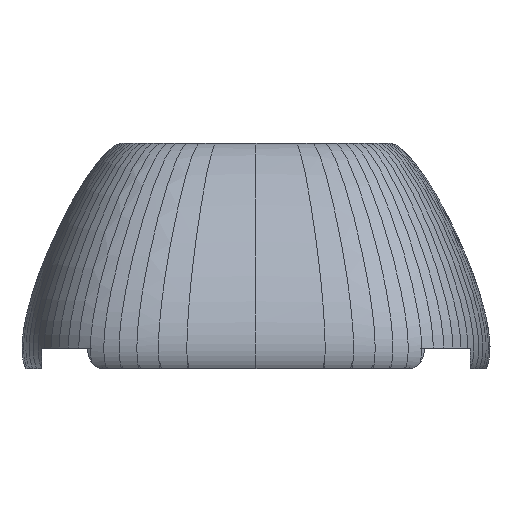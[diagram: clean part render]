
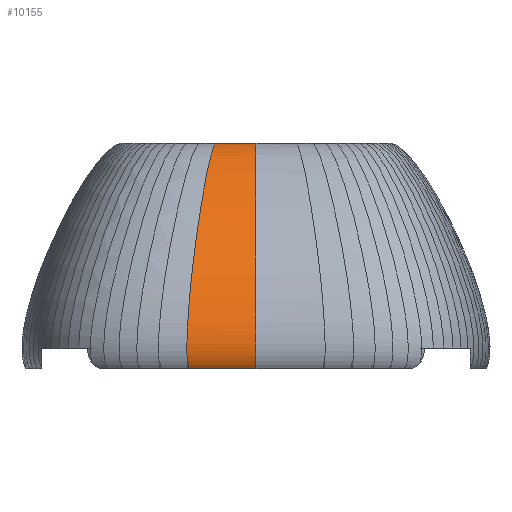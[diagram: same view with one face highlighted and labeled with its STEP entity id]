
A CAD part, left-side view. The second image highlights one B-rep face of the part: STEP entity #10155.
In plain terms, the highlighted free-form (B-spline) face has degree [1, 3] with [2, 4] control points.
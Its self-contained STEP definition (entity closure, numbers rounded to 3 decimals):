
#889 = PLANE('',#890);
#890 = AXIS2_PLACEMENT_3D('',#891,#892,#893);
#891 = CARTESIAN_POINT('',(195.,0.,295.));
#892 = DIRECTION('',(0.,0.,1.));
#893 = DIRECTION('',(-0.984,0.178,0.));
#3633 = VERTEX_POINT('',#3634);
#3634 = CARTESIAN_POINT('',(-194.629,40.593,295.));
#3646 = ( BOUNDED_SURFACE() B_SPLINE_SURFACE(1,3,(
    (#3647,#3648,#3649,#3650)
    ,(#3651,#3652,#3653,#3654
)),.UNSPECIFIED.,.F.,.F.,.F.) B_SPLINE_SURFACE_WITH_KNOTS((2,2),(4,4),(
    34.,35.),(0.,1.),.PIECEWISE_BEZIER_KNOTS.) 
GEOMETRIC_REPRESENTATION_ITEM() RATIONAL_B_SPLINE_SURFACE((
    (1.,1.,1.,1.)
,(1.,1.,1.,1.))) REPRESENTATION_ITEM('') SURFACE() );
#3647 = CARTESIAN_POINT('',(-347.331,97.927,65.));
#3648 = CARTESIAN_POINT('',(-381.651,107.824,
    111.667));
#3649 = CARTESIAN_POINT('',(-259.671,70.841,
    293.333));
#3650 = CARTESIAN_POINT('',(-193.513,57.298,295.));
#3651 = CARTESIAN_POINT('',(-349.333,69.377,65.));
#3652 = CARTESIAN_POINT('',(-383.851,76.389,
    111.667));
#3653 = CARTESIAN_POINT('',(-261.168,50.188,
    293.333));
#3654 = CARTESIAN_POINT('',(-194.629,40.593,295.));
#3662 = EDGE_CURVE('',#3633,#3663,#3665,.T.);
#3663 = VERTEX_POINT('',#3664);
#3664 = CARTESIAN_POINT('',(-195.,0.,295.));
#3665 = SURFACE_CURVE('',#3666,(#3669,#3675),.PCURVE_S1.);
#3666 = B_SPLINE_CURVE_WITH_KNOTS('',1,(#3667,#3668),.UNSPECIFIED.,.F.,
  .F.,(2,2),(35.,36.),.PIECEWISE_BEZIER_KNOTS.);
#3667 = CARTESIAN_POINT('',(-194.629,40.593,295.));
#3668 = CARTESIAN_POINT('',(-195.,0.,295.));
#3669 = PCURVE('',#889,#3670);
#3670 = DEFINITIONAL_REPRESENTATION('',(#3671),#3674);
#3671 = B_SPLINE_CURVE_WITH_KNOTS('',1,(#3672,#3673),.UNSPECIFIED.,.F.,
  .F.,(2,2),(35.,36.),.PIECEWISE_BEZIER_KNOTS.);
#3672 = CARTESIAN_POINT('',(390.631,29.421));
#3673 = CARTESIAN_POINT('',(383.77,69.431));
#3674 = ( GEOMETRIC_REPRESENTATION_CONTEXT(2) 
PARAMETRIC_REPRESENTATION_CONTEXT() REPRESENTATION_CONTEXT('2D SPACE',''
  ) );
#3675 = PCURVE('',#3676,#3685);
#3676 = ( BOUNDED_SURFACE() B_SPLINE_SURFACE(1,3,(
    (#3677,#3678,#3679,#3680)
    ,(#3681,#3682,#3683,#3684
)),.UNSPECIFIED.,.F.,.F.,.F.) B_SPLINE_SURFACE_WITH_KNOTS((2,2),(4,4),(
    35.,36.),(0.,1.),.PIECEWISE_BEZIER_KNOTS.) 
GEOMETRIC_REPRESENTATION_ITEM() RATIONAL_B_SPLINE_SURFACE((
    (1.,1.,1.,1.)
,(1.,1.,1.,1.))) REPRESENTATION_ITEM('') SURFACE() );
#3677 = CARTESIAN_POINT('',(-349.333,69.377,65.));
#3678 = CARTESIAN_POINT('',(-383.851,76.389,
    111.667));
#3679 = CARTESIAN_POINT('',(-261.168,50.188,
    293.333));
#3680 = CARTESIAN_POINT('',(-194.629,40.593,295.));
#3681 = CARTESIAN_POINT('',(-350.,0.,65.));
#3682 = CARTESIAN_POINT('',(-384.583,0.,
    111.667));
#3683 = CARTESIAN_POINT('',(-261.667,0.,
    293.333));
#3684 = CARTESIAN_POINT('',(-195.,0.,295.));
#3685 = DEFINITIONAL_REPRESENTATION('',(#3686),#3690);
#3686 = LINE('',#3687,#3688);
#3687 = CARTESIAN_POINT('',(0.,1.));
#3688 = VECTOR('',#3689,1.);
#3689 = DIRECTION('',(1.,0.));
#3690 = ( GEOMETRIC_REPRESENTATION_CONTEXT(2) 
PARAMETRIC_REPRESENTATION_CONTEXT() REPRESENTATION_CONTEXT('2D SPACE',''
  ) );
#3706 = ( BOUNDED_SURFACE() B_SPLINE_SURFACE(1,3,(
    (#3707,#3708,#3709,#3710)
    ,(#3711,#3712,#3713,#3714
)),.UNSPECIFIED.,.F.,.F.,.F.) B_SPLINE_SURFACE_WITH_KNOTS((2,2),(4,4),(
    36.,37.),(0.,1.),.PIECEWISE_BEZIER_KNOTS.) 
GEOMETRIC_REPRESENTATION_ITEM() RATIONAL_B_SPLINE_SURFACE((
    (1.,1.,1.,1.)
,(1.,1.,1.,1.))) REPRESENTATION_ITEM('') SURFACE() );
#3707 = CARTESIAN_POINT('',(-350.,0.,65.));
#3708 = CARTESIAN_POINT('',(-384.583,0.,
    111.667));
#3709 = CARTESIAN_POINT('',(-261.667,0.,
    293.333));
#3710 = CARTESIAN_POINT('',(-195.,0.,295.));
#3711 = CARTESIAN_POINT('',(-349.333,-69.377,65.));
#3712 = CARTESIAN_POINT('',(-383.851,-76.389,
    111.667));
#3713 = CARTESIAN_POINT('',(-261.168,-50.188,
    293.333));
#3714 = CARTESIAN_POINT('',(-194.629,-40.593,295.));
#9929 = PLANE('',#9930);
#9930 = AXIS2_PLACEMENT_3D('',#9931,#9932,#9933);
#9931 = CARTESIAN_POINT('',(350.,0.,65.));
#9932 = DIRECTION('',(0.,0.,1.));
#9933 = DIRECTION('',(-0.985,0.17,0.));
#10112 = VERTEX_POINT('',#10113);
#10113 = CARTESIAN_POINT('',(-349.333,69.377,65.));
#10132 = EDGE_CURVE('',#10112,#3633,#10133,.T.);
#10133 = SURFACE_CURVE('',#10134,(#10139,#10146),.PCURVE_S1.);
#10134 = ( BOUNDED_CURVE() B_SPLINE_CURVE(3,(#10135,#10136,#10137,#10138
),.UNSPECIFIED.,.F.,.F.) B_SPLINE_CURVE_WITH_KNOTS((4,4),(0.,1.),
.PIECEWISE_BEZIER_KNOTS.) CURVE() GEOMETRIC_REPRESENTATION_ITEM() 
RATIONAL_B_SPLINE_CURVE((1.,1.,1.,1.)) REPRESENTATION_ITEM('') );
#10135 = CARTESIAN_POINT('',(-349.333,69.377,65.));
#10136 = CARTESIAN_POINT('',(-383.851,76.389,
    111.667));
#10137 = CARTESIAN_POINT('',(-261.168,50.188,
    293.333));
#10138 = CARTESIAN_POINT('',(-194.629,40.593,295.));
#10139 = PCURVE('',#3646,#10140);
#10140 = DEFINITIONAL_REPRESENTATION('',(#10141),#10145);
#10141 = LINE('',#10142,#10143);
#10142 = CARTESIAN_POINT('',(35.,0.));
#10143 = VECTOR('',#10144,1.);
#10144 = DIRECTION('',(0.,1.));
#10145 = ( GEOMETRIC_REPRESENTATION_CONTEXT(2) 
PARAMETRIC_REPRESENTATION_CONTEXT() REPRESENTATION_CONTEXT('2D SPACE',''
  ) );
#10146 = PCURVE('',#3676,#10147);
#10147 = DEFINITIONAL_REPRESENTATION('',(#10148),#10152);
#10148 = LINE('',#10149,#10150);
#10149 = CARTESIAN_POINT('',(35.,0.));
#10150 = VECTOR('',#10151,1.);
#10151 = DIRECTION('',(0.,1.));
#10152 = ( GEOMETRIC_REPRESENTATION_CONTEXT(2) 
PARAMETRIC_REPRESENTATION_CONTEXT() REPRESENTATION_CONTEXT('2D SPACE',''
  ) );
#10155 = ADVANCED_FACE('',(#10156),#3676,.T.);
#10156 = FACE_BOUND('',#10157,.T.);
#10157 = EDGE_LOOP('',(#10158,#10179,#10201,#10202));
#10158 = ORIENTED_EDGE('',*,*,#10159,.T.);
#10159 = EDGE_CURVE('',#10112,#10160,#10162,.T.);
#10160 = VERTEX_POINT('',#10161);
#10161 = CARTESIAN_POINT('',(-350.,0.,65.));
#10162 = SURFACE_CURVE('',#10163,(#10166,#10173),.PCURVE_S1.);
#10163 = B_SPLINE_CURVE_WITH_KNOTS('',1,(#10164,#10165),.UNSPECIFIED.,
  .F.,.F.,(2,2),(35.,36.),.PIECEWISE_BEZIER_KNOTS.);
#10164 = CARTESIAN_POINT('',(-349.333,69.377,65.));
#10165 = CARTESIAN_POINT('',(-350.,0.,65.));
#10166 = PCURVE('',#3676,#10167);
#10167 = DEFINITIONAL_REPRESENTATION('',(#10168),#10172);
#10168 = LINE('',#10169,#10170);
#10169 = CARTESIAN_POINT('',(0.,0.));
#10170 = VECTOR('',#10171,1.);
#10171 = DIRECTION('',(1.,0.));
#10172 = ( GEOMETRIC_REPRESENTATION_CONTEXT(2) 
PARAMETRIC_REPRESENTATION_CONTEXT() REPRESENTATION_CONTEXT('2D SPACE',''
  ) );
#10173 = PCURVE('',#9929,#10174);
#10174 = DEFINITIONAL_REPRESENTATION('',(#10175),#10178);
#10175 = B_SPLINE_CURVE_WITH_KNOTS('',1,(#10176,#10177),.UNSPECIFIED.,
  .F.,.F.,(2,2),(35.,36.),.PIECEWISE_BEZIER_KNOTS.);
#10176 = CARTESIAN_POINT('',(700.96,50.357));
#10177 = CARTESIAN_POINT('',(689.838,118.84));
#10178 = ( GEOMETRIC_REPRESENTATION_CONTEXT(2) 
PARAMETRIC_REPRESENTATION_CONTEXT() REPRESENTATION_CONTEXT('2D SPACE',''
  ) );
#10179 = ORIENTED_EDGE('',*,*,#10180,.T.);
#10180 = EDGE_CURVE('',#10160,#3663,#10181,.T.);
#10181 = SURFACE_CURVE('',#10182,(#10187,#10194),.PCURVE_S1.);
#10182 = ( BOUNDED_CURVE() B_SPLINE_CURVE(3,(#10183,#10184,#10185,#10186
),.UNSPECIFIED.,.F.,.F.) B_SPLINE_CURVE_WITH_KNOTS((4,4),(0.,1.),
.PIECEWISE_BEZIER_KNOTS.) CURVE() GEOMETRIC_REPRESENTATION_ITEM() 
RATIONAL_B_SPLINE_CURVE((1.,1.,1.,1.)) REPRESENTATION_ITEM('') );
#10183 = CARTESIAN_POINT('',(-350.,0.,65.));
#10184 = CARTESIAN_POINT('',(-384.583,0.,
    111.667));
#10185 = CARTESIAN_POINT('',(-261.667,0.,
    293.333));
#10186 = CARTESIAN_POINT('',(-195.,0.,295.));
#10187 = PCURVE('',#3676,#10188);
#10188 = DEFINITIONAL_REPRESENTATION('',(#10189),#10193);
#10189 = LINE('',#10190,#10191);
#10190 = CARTESIAN_POINT('',(36.,0.));
#10191 = VECTOR('',#10192,1.);
#10192 = DIRECTION('',(0.,1.));
#10193 = ( GEOMETRIC_REPRESENTATION_CONTEXT(2) 
PARAMETRIC_REPRESENTATION_CONTEXT() REPRESENTATION_CONTEXT('2D SPACE',''
  ) );
#10194 = PCURVE('',#3706,#10195);
#10195 = DEFINITIONAL_REPRESENTATION('',(#10196),#10200);
#10196 = LINE('',#10197,#10198);
#10197 = CARTESIAN_POINT('',(36.,0.));
#10198 = VECTOR('',#10199,1.);
#10199 = DIRECTION('',(0.,1.));
#10200 = ( GEOMETRIC_REPRESENTATION_CONTEXT(2) 
PARAMETRIC_REPRESENTATION_CONTEXT() REPRESENTATION_CONTEXT('2D SPACE',''
  ) );
#10201 = ORIENTED_EDGE('',*,*,#3662,.F.);
#10202 = ORIENTED_EDGE('',*,*,#10132,.F.);
